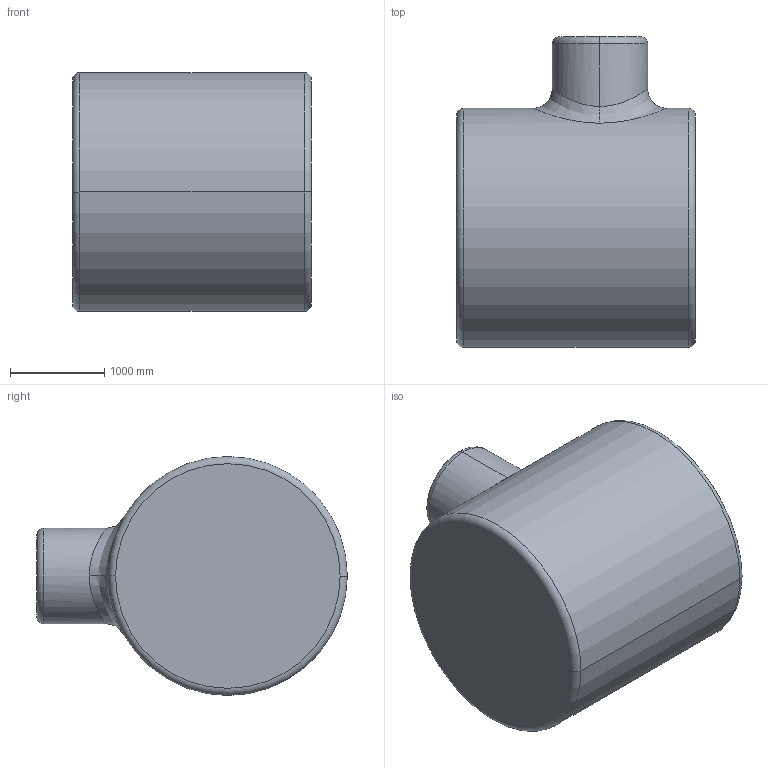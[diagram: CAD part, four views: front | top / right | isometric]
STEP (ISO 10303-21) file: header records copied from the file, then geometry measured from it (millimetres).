
FILE_DESCRIPTION((''),'2;1');
FILE_NAME('STEP1_1','2026-04-01T10:11:26',('w00485078'),(''),'CREO PARAMETRIC BY PTC INC, 2018190','CREO PARAMETRIC BY PTC INC, 2018190','');
FILE_SCHEMA(('CONFIG_CONTROL_DESIGN'));
Length unit declared in the file: inch
Products named in the file (1): STEP1_1
Bounding box: 2540 x 3302 x 2540 mm (x, y, z)
Volume: 13504018320.8 mm3; surface area: 32197661.7 mm2
Topology: 1 solids, 1 shells, 17 faces, 35 edges, 20 vertices
Faces by surface type: torus 6, cylinder 4, bspline 4, plane 3
Entity records: 879 total; most frequent: CARTESIAN_POINT 492, DIRECTION 75, ORIENTED_EDGE 70, AXIS2_PLACEMENT_3D 35, EDGE_CURVE 35, CIRCLE 22, VERTEX_POINT 20, EDGE_LOOP 17
